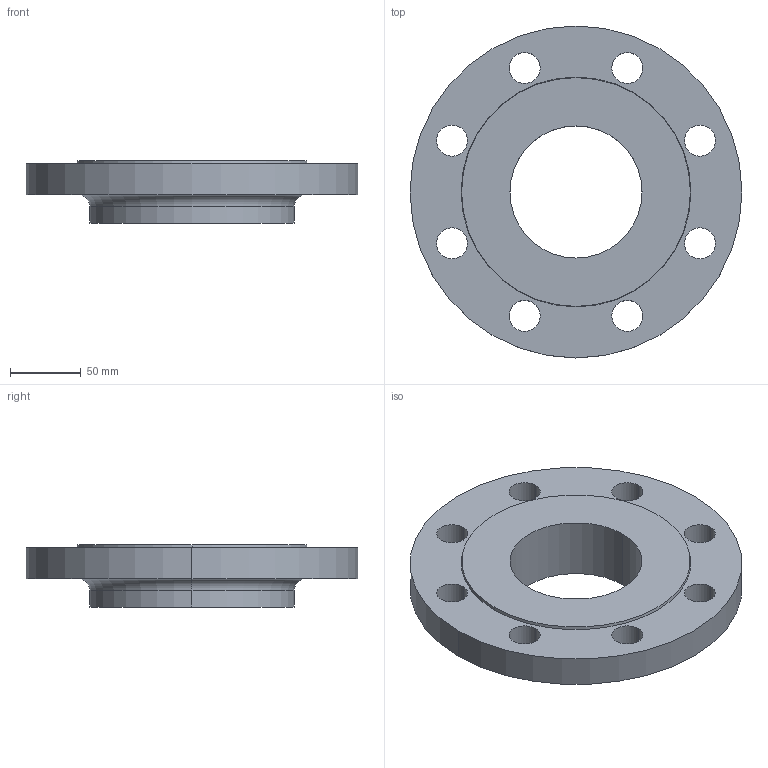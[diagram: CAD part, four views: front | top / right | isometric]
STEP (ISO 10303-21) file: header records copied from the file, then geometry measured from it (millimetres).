
FILE_DESCRIPTION (( 'STEP AP214' ), '1' );
FILE_NAME ('PN40 DN100 Type 13 - Type B Face.STEP', '2019-01-02T00:19:23', ( '' ), ( '' ), 'SwSTEP 2.0', 'SolidWorks 2019', '' );
FILE_SCHEMA (( 'AUTOMOTIVE_DESIGN' ));
Length unit declared in the file: millimetre
Products named in the file (1): PN40 DN100 Type 13 - Type B Face
Bounding box: 235 x 235 x 44 mm (x, y, z)
Volume: 963247.7 mm3; surface area: 116693.7 mm2
Topology: 1 solids, 1 shells, 30 faces, 76 edges, 50 vertices
Faces by surface type: cylinder 22, plane 4, torus 2, cone 2
Entity records: 1006 total; most frequent: DIRECTION 190, CARTESIAN_POINT 157, ORIENTED_EDGE 152, AXIS2_PLACEMENT_3D 83, EDGE_CURVE 76, CIRCLE 52, VERTEX_POINT 50, EDGE_LOOP 50
